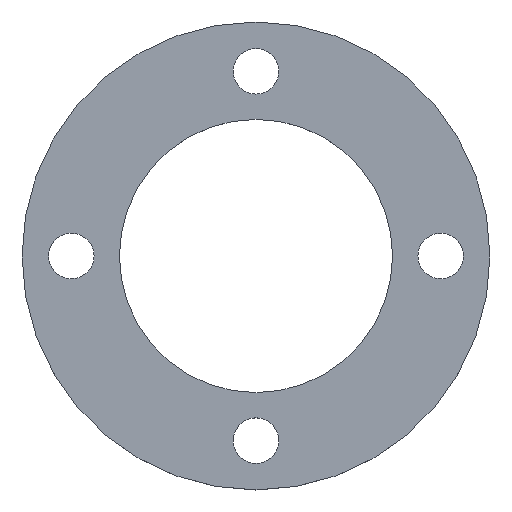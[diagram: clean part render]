
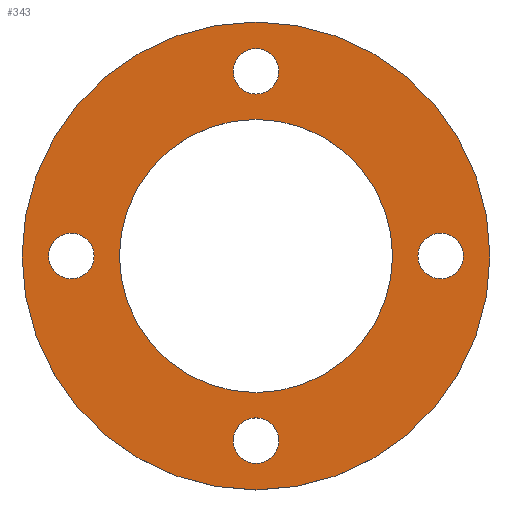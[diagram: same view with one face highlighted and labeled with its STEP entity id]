
A CAD part, top view. The second image highlights one B-rep face of the part: STEP entity #343.
In plain terms, the highlighted planar face has unit normal (0, 0, 1).
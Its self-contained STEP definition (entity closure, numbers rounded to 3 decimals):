
#6 = DIRECTION ( 'NONE',  ( 1., 0., 0. ) ) ;
#8 = CARTESIAN_POINT ( 'NONE',  ( 9., 73., 11. ) ) ;
#16 = EDGE_CURVE ( 'NONE', #276, #225, #392, .T. ) ;
#19 = CARTESIAN_POINT ( 'NONE',  ( -73., 0., 11. ) ) ;
#20 = AXIS2_PLACEMENT_3D ( 'NONE', #245, #141, #288 ) ;
#21 = EDGE_CURVE ( 'NONE', #42, #444, #393, .T. ) ;
#32 = ORIENTED_EDGE ( 'NONE', *, *, #140, .F. ) ;
#42 = VERTEX_POINT ( 'NONE', #130 ) ;
#45 = VERTEX_POINT ( 'NONE', #506 ) ;
#48 = EDGE_LOOP ( 'NONE', ( #366, #285 ) ) ;
#54 = FACE_BOUND ( 'NONE', #291, .T. ) ;
#56 = EDGE_CURVE ( 'NONE', #45, #204, #402, .T. ) ;
#70 = VERTEX_POINT ( 'NONE', #154 ) ;
#74 = AXIS2_PLACEMENT_3D ( 'NONE', #412, #508, #201 ) ;
#75 = CARTESIAN_POINT ( 'NONE',  ( 0., 0., 11. ) ) ;
#76 = CARTESIAN_POINT ( 'NONE',  ( 73., 0., 11. ) ) ;
#80 = ORIENTED_EDGE ( 'NONE', *, *, #261, .F. ) ;
#83 = ORIENTED_EDGE ( 'NONE', *, *, #183, .T. ) ;
#89 = EDGE_CURVE ( 'NONE', #421, #131, #230, .T. ) ;
#90 = EDGE_LOOP ( 'NONE', ( #80, #470 ) ) ;
#97 = DIRECTION ( 'NONE',  ( 1., 0., 0. ) ) ;
#100 = PLANE ( 'NONE',  #269 ) ;
#104 = DIRECTION ( 'NONE',  ( 1., 0., 0. ) ) ;
#121 = FACE_BOUND ( 'NONE', #48, .T. ) ;
#122 = VERTEX_POINT ( 'NONE', #472 ) ;
#125 = ORIENTED_EDGE ( 'NONE', *, *, #240, .T. ) ;
#126 = FACE_BOUND ( 'NONE', #205, .T. ) ;
#129 = FACE_BOUND ( 'NONE', #247, .T. ) ;
#130 = CARTESIAN_POINT ( 'NONE',  ( -82., 0., 11. ) ) ;
#131 = VERTEX_POINT ( 'NONE', #427 ) ;
#132 = CIRCLE ( 'NONE', #309, 9. ) ;
#140 = EDGE_CURVE ( 'NONE', #444, #42, #397, .T. ) ;
#141 = DIRECTION ( 'NONE',  ( 0., 0., 1. ) ) ;
#144 = CARTESIAN_POINT ( 'NONE',  ( 54., 0., 11. ) ) ;
#154 = CARTESIAN_POINT ( 'NONE',  ( -92.5, 0., 11. ) ) ;
#155 = CIRCLE ( 'NONE', #371, 92.5 ) ;
#162 = CARTESIAN_POINT ( 'NONE',  ( 0., 73., 11. ) ) ;
#165 = CARTESIAN_POINT ( 'NONE',  ( 64., 0., 11. ) ) ;
#172 = DIRECTION ( 'NONE',  ( 1., 0., 0. ) ) ;
#178 = AXIS2_PLACEMENT_3D ( 'NONE', #76, #497, #310 ) ;
#183 = EDGE_CURVE ( 'NONE', #70, #293, #155, .T. ) ;
#185 = CARTESIAN_POINT ( 'NONE',  ( 82., 0., 11. ) ) ;
#197 = DIRECTION ( 'NONE',  ( 0., 0., 1. ) ) ;
#200 = ORIENTED_EDGE ( 'NONE', *, *, #337, .F. ) ;
#201 = DIRECTION ( 'NONE',  ( 1., 0., 0. ) ) ;
#204 = VERTEX_POINT ( 'NONE', #144 ) ;
#205 = EDGE_LOOP ( 'NONE', ( #207, #32 ) ) ;
#207 = ORIENTED_EDGE ( 'NONE', *, *, #21, .F. ) ;
#210 = AXIS2_PLACEMENT_3D ( 'NONE', #242, #323, #349 ) ;
#215 = ORIENTED_EDGE ( 'NONE', *, *, #56, .F. ) ;
#216 = DIRECTION ( 'NONE',  ( 0., 0., 1. ) ) ;
#222 = CIRCLE ( 'NONE', #210, 9. ) ;
#224 = FACE_BOUND ( 'NONE', #90, .T. ) ;
#225 = VERTEX_POINT ( 'NONE', #185 ) ;
#230 = CIRCLE ( 'NONE', #311, 9. ) ;
#232 = DIRECTION ( 'NONE',  ( 0., 0., 1. ) ) ;
#240 = EDGE_CURVE ( 'NONE', #293, #70, #280, .T. ) ;
#242 = CARTESIAN_POINT ( 'NONE',  ( 0., 73., 11. ) ) ;
#245 = CARTESIAN_POINT ( 'NONE',  ( 0., 0., 11. ) ) ;
#247 = EDGE_LOOP ( 'NONE', ( #215, #369 ) ) ;
#253 = DIRECTION ( 'NONE',  ( 1., 0., 0. ) ) ;
#257 = CARTESIAN_POINT ( 'NONE',  ( 73., 0., 11. ) ) ;
#261 = EDGE_CURVE ( 'NONE', #122, #447, #443, .T. ) ;
#267 = DIRECTION ( 'NONE',  ( 1., 0., 0. ) ) ;
#269 = AXIS2_PLACEMENT_3D ( 'NONE', #494, #197, #253 ) ;
#276 = VERTEX_POINT ( 'NONE', #165 ) ;
#280 = CIRCLE ( 'NONE', #20, 92.5 ) ;
#285 = ORIENTED_EDGE ( 'NONE', *, *, #362, .F. ) ;
#288 = DIRECTION ( 'NONE',  ( 1., 0., 0. ) ) ;
#291 = EDGE_LOOP ( 'NONE', ( #455, #200 ) ) ;
#293 = VERTEX_POINT ( 'NONE', #492 ) ;
#306 = EDGE_CURVE ( 'NONE', #447, #122, #222, .T. ) ;
#307 = DIRECTION ( 'NONE',  ( 1., 0., 0. ) ) ;
#309 = AXIS2_PLACEMENT_3D ( 'NONE', #257, #424, #307 ) ;
#310 = DIRECTION ( 'NONE',  ( 1., 0., 0. ) ) ;
#311 = AXIS2_PLACEMENT_3D ( 'NONE', #426, #232, #267 ) ;
#314 = DIRECTION ( 'NONE',  ( 1., 0., 0. ) ) ;
#320 = DIRECTION ( 'NONE',  ( 0., 0., 1. ) ) ;
#323 = DIRECTION ( 'NONE',  ( 0., 0., 1. ) ) ;
#333 = AXIS2_PLACEMENT_3D ( 'NONE', #162, #320, #6 ) ;
#337 = EDGE_CURVE ( 'NONE', #131, #421, #389, .T. ) ;
#338 = DIRECTION ( 'NONE',  ( 0., 0., 1. ) ) ;
#343 = ADVANCED_FACE ( 'NONE', ( #54, #224, #391, #129, #121, #126 ), #100, .T. ) ;
#348 = AXIS2_PLACEMENT_3D ( 'NONE', #499, #410, #172 ) ;
#349 = DIRECTION ( 'NONE',  ( 1., 0., 0. ) ) ;
#360 = DIRECTION ( 'NONE',  ( 1., 0., 0. ) ) ;
#362 = EDGE_CURVE ( 'NONE', #225, #276, #132, .T. ) ;
#363 = EDGE_LOOP ( 'NONE', ( #83, #125 ) ) ;
#366 = ORIENTED_EDGE ( 'NONE', *, *, #16, .F. ) ;
#369 = ORIENTED_EDGE ( 'NONE', *, *, #425, .F. ) ;
#371 = AXIS2_PLACEMENT_3D ( 'NONE', #430, #483, #97 ) ;
#389 = CIRCLE ( 'NONE', #348, 9. ) ;
#391 = FACE_OUTER_BOUND ( 'NONE', #363, .T. ) ;
#392 = CIRCLE ( 'NONE', #178, 9. ) ;
#393 = CIRCLE ( 'NONE', #431, 9. ) ;
#397 = CIRCLE ( 'NONE', #74, 9. ) ;
#402 = CIRCLE ( 'NONE', #491, 54. ) ;
#410 = DIRECTION ( 'NONE',  ( 0., 0., 1. ) ) ;
#412 = CARTESIAN_POINT ( 'NONE',  ( -73., 0., 11. ) ) ;
#421 = VERTEX_POINT ( 'NONE', #502 ) ;
#424 = DIRECTION ( 'NONE',  ( 0., 0., 1. ) ) ;
#425 = EDGE_CURVE ( 'NONE', #204, #45, #473, .T. ) ;
#426 = CARTESIAN_POINT ( 'NONE',  ( 0., -73., 11. ) ) ;
#427 = CARTESIAN_POINT ( 'NONE',  ( 9., -73., 11. ) ) ;
#430 = CARTESIAN_POINT ( 'NONE',  ( 0., 0., 11. ) ) ;
#431 = AXIS2_PLACEMENT_3D ( 'NONE', #19, #216, #314 ) ;
#443 = CIRCLE ( 'NONE', #333, 9. ) ;
#444 = VERTEX_POINT ( 'NONE', #460 ) ;
#447 = VERTEX_POINT ( 'NONE', #8 ) ;
#450 = DIRECTION ( 'NONE',  ( 0., 0., 1. ) ) ;
#455 = ORIENTED_EDGE ( 'NONE', *, *, #89, .F. ) ;
#460 = CARTESIAN_POINT ( 'NONE',  ( -64., 0., 11. ) ) ;
#470 = ORIENTED_EDGE ( 'NONE', *, *, #306, .F. ) ;
#472 = CARTESIAN_POINT ( 'NONE',  ( -9., 73., 11. ) ) ;
#473 = CIRCLE ( 'NONE', #489, 54. ) ;
#483 = DIRECTION ( 'NONE',  ( 0., 0., 1. ) ) ;
#489 = AXIS2_PLACEMENT_3D ( 'NONE', #75, #450, #104 ) ;
#491 = AXIS2_PLACEMENT_3D ( 'NONE', #501, #338, #360 ) ;
#492 = CARTESIAN_POINT ( 'NONE',  ( 92.5, 0., 11. ) ) ;
#494 = CARTESIAN_POINT ( 'NONE',  ( 0., 0., 11. ) ) ;
#497 = DIRECTION ( 'NONE',  ( 0., 0., 1. ) ) ;
#499 = CARTESIAN_POINT ( 'NONE',  ( 0., -73., 11. ) ) ;
#501 = CARTESIAN_POINT ( 'NONE',  ( 0., 0., 11. ) ) ;
#502 = CARTESIAN_POINT ( 'NONE',  ( -9., -73., 11. ) ) ;
#506 = CARTESIAN_POINT ( 'NONE',  ( -54., 0., 11. ) ) ;
#508 = DIRECTION ( 'NONE',  ( 0., 0., 1. ) ) ;
